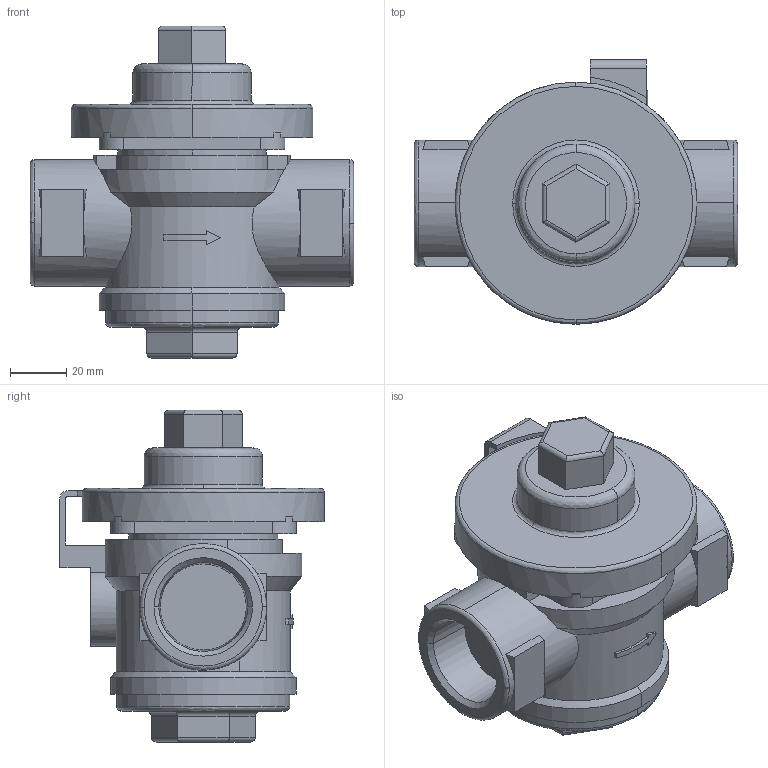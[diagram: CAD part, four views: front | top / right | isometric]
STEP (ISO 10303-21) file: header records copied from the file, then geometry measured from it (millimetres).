
FILE_DESCRIPTION( (''), '2;1');
FILE_NAME ('PC1027.12188.TS-7 25A_2456.stp','2025-07-31T16:26:40',(''),(''),'spGate 20.6.3 (****-****-****-****)','','');
FILE_SCHEMA (('AUTOMOTIVE_DESIGN'));
Length unit declared in the file: millimetre
Products named in the file (2): Assembly; TS-7 25A
Assembly tree (1 placements, depth 2):
  Assembly
    TS-7 25A
Bounding box: 115 x 94 x 118 mm (x, y, z)
Volume: 399511.9 mm3; surface area: 49591.9 mm2
Topology: 1 solids, 1 shells, 156 faces, 393 edges, 252 vertices
Faces by surface type: plane 83, cylinder 48, bspline 25
Entity records: 8400 total; most frequent: CARTESIAN_POINT 1714, ORIENTED_EDGE 786, DIRECTION 668, COLOUR_RGB 550, PRESENTATION_STYLE_ASSIGNMENT 550, STYLED_ITEM 550, EDGE_CURVE 393, DRAUGHTING_PRE_DEFINED_CURVE_FONT 393
